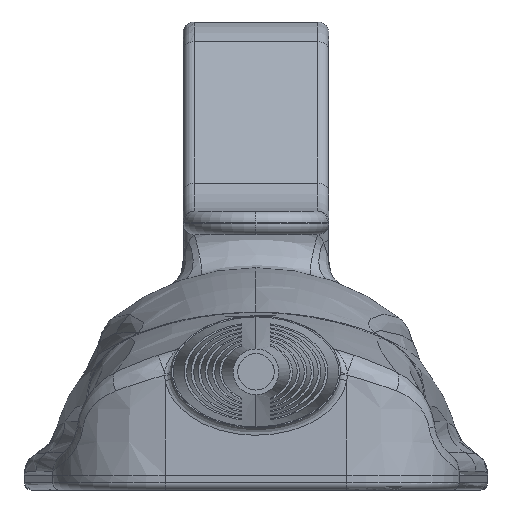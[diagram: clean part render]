
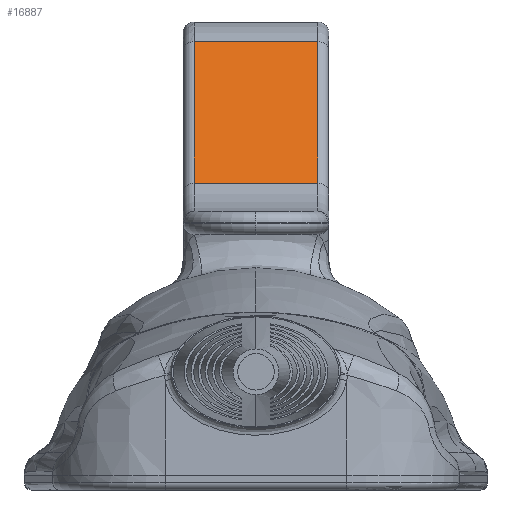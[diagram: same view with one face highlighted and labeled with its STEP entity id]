
A CAD part, front view. The second image highlights one B-rep face of the part: STEP entity #16887.
In plain terms, the highlighted planar face has unit normal (0, -0.592, 0.806).
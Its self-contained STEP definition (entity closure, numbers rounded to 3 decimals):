
#169 = VECTOR ( 'NONE', #15645, 1000. ) ;
#173 = CARTESIAN_POINT ( 'NONE',  ( -8.5, -12.084, 43.561 ) ) ;
#715 = CARTESIAN_POINT ( 'NONE',  ( 10., -12.084, 43.561 ) ) ;
#1327 = ORIENTED_EDGE ( 'NONE', *, *, #7801, .T. ) ;
#2165 = CARTESIAN_POINT ( 'NONE',  ( 8.5, 14.347, 62.967 ) ) ;
#2581 = CARTESIAN_POINT ( 'NONE',  ( 10., 14.347, 62.967 ) ) ;
#2658 = CARTESIAN_POINT ( 'NONE',  ( 10., 14.347, 62.967 ) ) ;
#2869 = DIRECTION ( 'NONE',  ( 0., 0.806, 0.592 ) ) ;
#4122 = LINE ( 'NONE', #715, #4681 ) ;
#4681 = VECTOR ( 'NONE', #12387, 1000. ) ;
#4900 = VERTEX_POINT ( 'NONE', #12199 ) ;
#5154 = VECTOR ( 'NONE', #12378, 1000. ) ;
#5263 = VERTEX_POINT ( 'NONE', #173 ) ;
#5732 = CARTESIAN_POINT ( 'NONE',  ( -8.5, 14.347, 62.967 ) ) ;
#6046 = CARTESIAN_POINT ( 'NONE',  ( -8.5, 14.347, 62.967 ) ) ;
#6790 = EDGE_CURVE ( 'NONE', #14343, #11301, #8953, .T. ) ;
#7316 = AXIS2_PLACEMENT_3D ( 'NONE', #2658, #14417, #2869 ) ;
#7801 = EDGE_CURVE ( 'NONE', #4900, #14343, #10912, .T. ) ;
#8550 = VECTOR ( 'NONE', #8823, 1000. ) ;
#8823 = DIRECTION ( 'NONE',  ( 0., 0.806, 0.592 ) ) ;
#8863 = EDGE_LOOP ( 'NONE', ( #19111, #1327, #13071, #19282 ) ) ;
#8953 = LINE ( 'NONE', #2581, #5154 ) ;
#9030 = LINE ( 'NONE', #5732, #169 ) ;
#10335 = EDGE_CURVE ( 'NONE', #5263, #4900, #4122, .T. ) ;
#10912 = LINE ( 'NONE', #17636, #8550 ) ;
#11009 = PLANE ( 'NONE',  #7316 ) ;
#11301 = VERTEX_POINT ( 'NONE', #6046 ) ;
#12199 = CARTESIAN_POINT ( 'NONE',  ( 8.5, -12.084, 43.561 ) ) ;
#12378 = DIRECTION ( 'NONE',  ( -1., 0., 0. ) ) ;
#12387 = DIRECTION ( 'NONE',  ( 1., 0., 0. ) ) ;
#13071 = ORIENTED_EDGE ( 'NONE', *, *, #6790, .T. ) ;
#14343 = VERTEX_POINT ( 'NONE', #2165 ) ;
#14417 = DIRECTION ( 'NONE',  ( 0., 0.592, -0.806 ) ) ;
#15645 = DIRECTION ( 'NONE',  ( 0., -0.806, -0.592 ) ) ;
#16635 = EDGE_CURVE ( 'NONE', #11301, #5263, #9030, .T. ) ;
#16887 = ADVANCED_FACE ( 'NONE', ( #17945 ), #11009, .F. ) ;
#17636 = CARTESIAN_POINT ( 'NONE',  ( 8.5, 14.347, 62.967 ) ) ;
#17945 = FACE_OUTER_BOUND ( 'NONE', #8863, .T. ) ;
#19111 = ORIENTED_EDGE ( 'NONE', *, *, #10335, .T. ) ;
#19282 = ORIENTED_EDGE ( 'NONE', *, *, #16635, .T. ) ;
